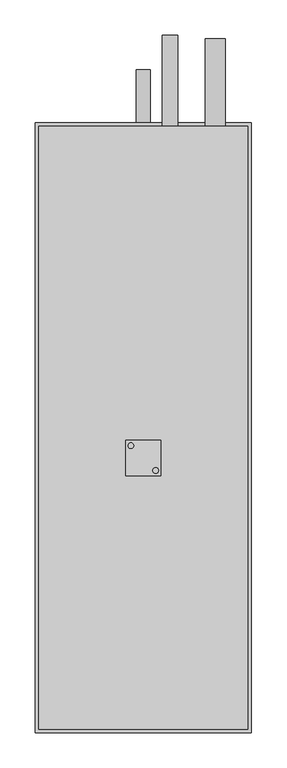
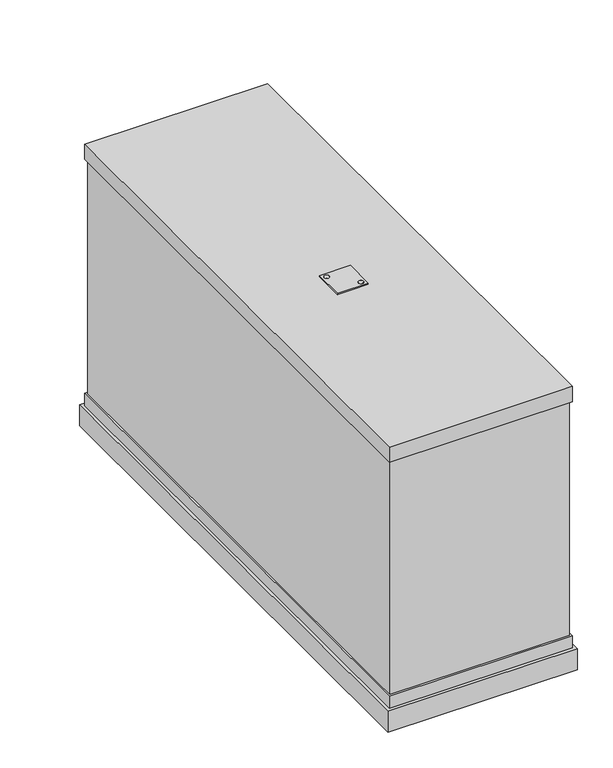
"""IFC4 building model written with IfcOpenShell, lengths in millimetres: proxy geometry, KORF_Воздухоохладитель_Фреоновый_FLO_Правый : FLO 70-40."""

from ifc_helpers import new_model, si_unit, point, frame, frame_2d, origin, place, context, project, spatial, polyline, circle_curve, trimmed, segment, composite_curve, outline, extrude, faceted_brep, source, transform, mapped, element, save


def mechanical_equipment_c529c1b8(model_context):
    return source(origin(), model_context, "Body", "SolidModel", [
        extrude(outline(composite_curve([segment(trimmed(circle_curve(frame_2d((170.5727066, -17.5745746)), 4.0), [point((174.5727066, -17.5745746))], [point((166.5727066, -17.5745746))], False, "CARTESIAN"), True, "CONTINUOUS"), segment(trimmed(circle_curve(frame_2d((170.5727066, -17.5745746)), 4.0), [point((166.5727066, -17.5745746))], [point((174.5727066, -17.5745746))], False, "CARTESIAN"), True, "CONTINUOUS")], self_intersect=False)), frame((0.0, 0.0, 226.0), z_axis=(0.0, 0.0, 1.0), x_axis=(1.0, 0.0, 0.0)), (0.0, 0.0, 1.0), 2.0),
        extrude(outline(composite_curve([segment(trimmed(circle_curve(frame_2d((135.4272934, 17.5745746)), 4.0), [point((131.4272934, 17.5745746))], [point((139.4272934, 17.5745746))], False, "CARTESIAN"), True, "CONTINUOUS"), segment(trimmed(circle_curve(frame_2d((135.4272934, 17.5745746)), 4.0), [point((139.4272934, 17.5745746))], [point((131.4272934, 17.5745746))], False, "CARTESIAN"), True, "CONTINUOUS")], self_intersect=False)), frame((0.0, 0.0, 226.0), z_axis=(0.0, 0.0, 1.0), x_axis=(1.0, 0.0, 0.0)), (0.0, 0.0, 1.0), 2.0),
        extrude(outline(polyline([(128.0, -25.0), (128.0, 25.0), (178.0, 25.0), (178.0, -25.0), (128.0, -25.0)]), holes=[composite_curve([segment(trimmed(circle_curve(frame_2d((170.5727066, -17.5745746)), 4.0), [point((174.5727066, -17.5745746))], [point((166.5727066, -17.5745746))], True, "CARTESIAN"), True, "CONTINUOUS"), segment(trimmed(circle_curve(frame_2d((170.5727066, -17.5745746)), 4.0), [point((166.5727066, -17.5745746))], [point((174.5727066, -17.5745746))], True, "CARTESIAN"), True, "CONTINUOUS")], self_intersect=False), composite_curve([segment(trimmed(circle_curve(frame_2d((135.4272934, 17.5745746)), 4.0), [point((131.4272934, 17.5745746))], [point((139.4272934, 17.5745746))], True, "CARTESIAN"), True, "CONTINUOUS"), segment(trimmed(circle_curve(frame_2d((135.4272934, 17.5745746)), 4.0), [point((139.4272934, 17.5745746))], [point((131.4272934, 17.5745746))], True, "CARTESIAN"), True, "CONTINUOUS")], self_intersect=False)]), frame((0.0, 0.0, 226.0), z_axis=(0.0, 0.0, 1.0), x_axis=(1.0, 0.0, 0.0)), (0.0, 0.0, 1.0), 2.0),
        faceted_brep([(306.0, -389.0, -221.0), (306.0, -389.0, -257.0), (306.0, 475.0, -257.0), (306.0, 475.0, -221.0), (0.0, -389.0, -221.0), (0.0, 475.0, -221.0), (0.0, 475.0, -257.0), (0.0, -389.0, -257.0), (301.0, 470.0, -221.0), (301.0, -384.0, -221.0), (5.0, -384.0, -221.0), (5.0, 470.0, -221.0), (298.0, -381.0, 200.0), (298.0, -381.0, -200.0), (298.0, -350.0, -200.0), (298.0, 350.0, -200.0), (298.0, 467.0, -200.0), (298.0, 467.0, 200.0), (298.0, 350.0, 200.0), (298.0, -350.0, 200.0), (8.0, 467.0, 200.0), (8.0, 467.0, -200.0), (8.0, 350.0, -200.0), (8.0, -350.0, -200.0), (8.0, -381.0, -200.0), (8.0, -381.0, 200.0), (8.0, -350.0, 200.0), (8.0, 350.0, 200.0), (301.0, -384.0, 200.0), (301.0, 470.0, 200.0), (301.0, 470.0, 226.0), (301.0, -384.0, 226.0), (301.0, -384.0, -200.0), (301.0, 470.0, -200.0), (5.0, -384.0, 200.0), (5.0, -384.0, 226.0), (5.0, 470.0, 226.0), (5.0, 470.0, 200.0), (5.0, -384.0, -200.0), (5.0, 470.0, -200.0)], [[[0, 1, 2, 3]], [[4, 5, 6, 7]], [[1, 0, 4, 7]], [[2, 1, 7, 6]], [[3, 2, 6, 5]], [[0, 3, 5, 4], [8, 9, 10, 11]], [[12, 13, 14, 15, 16, 17, 18, 19]], [[20, 21, 22, 23, 24, 25, 26, 27]], [[13, 12, 25, 24]], [[17, 16, 21, 20]], [[28, 29, 30, 31]], [[32, 9, 8, 33]], [[34, 35, 36, 37]], [[38, 39, 11, 10]], [[29, 28, 34, 37], [12, 19, 18, 17, 20, 27, 26, 25]], [[30, 29, 37, 36]], [[31, 30, 36, 35]], [[28, 31, 35, 34]], [[9, 32, 38, 10]], [[33, 8, 11, 39]], [[32, 33, 39, 38], [14, 13, 24, 23, 22, 21, 16, 15]]]),
        extrude(outline(composite_curve([segment(trimmed(circle_curve(frame_2d((-149.0, 255.0)), 14.285), [point((-149.0, 240.715))], [point((-149.0, 269.285))], False, "CARTESIAN"), True, "CONTINUOUS"), segment(trimmed(circle_curve(frame_2d((-149.0, 255.0)), 14.285), [point((-149.0, 269.285))], [point((-149.0, 240.715))], False, "CARTESIAN"), True, "CONTINUOUS")], self_intersect=False)), frame((0.0, 467.0, 0.0), z_axis=(0.0, 1.0, 0.0), x_axis=(0.0, 0.0, 1.0)), (0.0, 0.0, 1.0), 127.0),
        extrude(outline(composite_curve([segment(trimmed(circle_curve(frame_2d((81.0, 191.0)), 11.11), [point((81.0, 179.89))], [point((81.0, 202.11))], False, "CARTESIAN"), True, "CONTINUOUS"), segment(trimmed(circle_curve(frame_2d((81.0, 191.0)), 11.11), [point((81.0, 202.11))], [point((81.0, 179.89))], False, "CARTESIAN"), True, "CONTINUOUS")], self_intersect=False)), frame((0.0, 467.0, 0.0), z_axis=(0.0, 1.0, 0.0), x_axis=(0.0, 0.0, 1.0)), (0.0, 0.0, 1.0), 132.0),
        extrude(outline(composite_curve([segment(trimmed(circle_curve(frame_2d((-239.0, 153.0)), 10.0), [point((-239.0, 143.0))], [point((-239.0, 163.0))], False, "CARTESIAN"), True, "CONTINUOUS"), segment(trimmed(circle_curve(frame_2d((-239.0, 153.0)), 10.0), [point((-239.0, 163.0))], [point((-239.0, 143.0))], False, "CARTESIAN"), True, "CONTINUOUS")], self_intersect=False)), frame((0.0, 475.0, 0.0), z_axis=(0.0, 1.0, 0.0), x_axis=(0.0, 0.0, 1.0)), (0.0, 0.0, 1.0), 75.0),
    ])


if __name__ == "__main__":
    model = new_model("IFC4")
    model_context = context("Model", 3, world=origin())
    ifc_project = project(units=[si_unit("LENGTHUNIT", "METRE", prefix="MILLI")], contexts=[model_context])
    site = spatial("IfcSite", under=ifc_project)
    building = spatial("IfcBuilding", under=site)
    placement = place(None, origin())
    mechanical_equipment_shape = mechanical_equipment_c529c1b8(model_context)
    element("IfcBuildingElementProxy", 1, Name="KORF_Воздухоохладитель_Фреоновый_FLO_Правый : FLO 70-40", ObjectType="KORF_Воздухоохладитель_Фреоновый_FLO_Правый : FLO 70-40", at=placement, inside=building, context=model_context, shape_type="MappedRepresentation", body=[
        mapped(mechanical_equipment_shape, transform((0.0, 0.0, 0.0), x_axis=(1.0, 0.0, 0.0), y_axis=(0.0, 1.0, 0.0), z_axis=(0.0, 0.0, 1.0))),
    ])
    save(model, "model.ifc")
